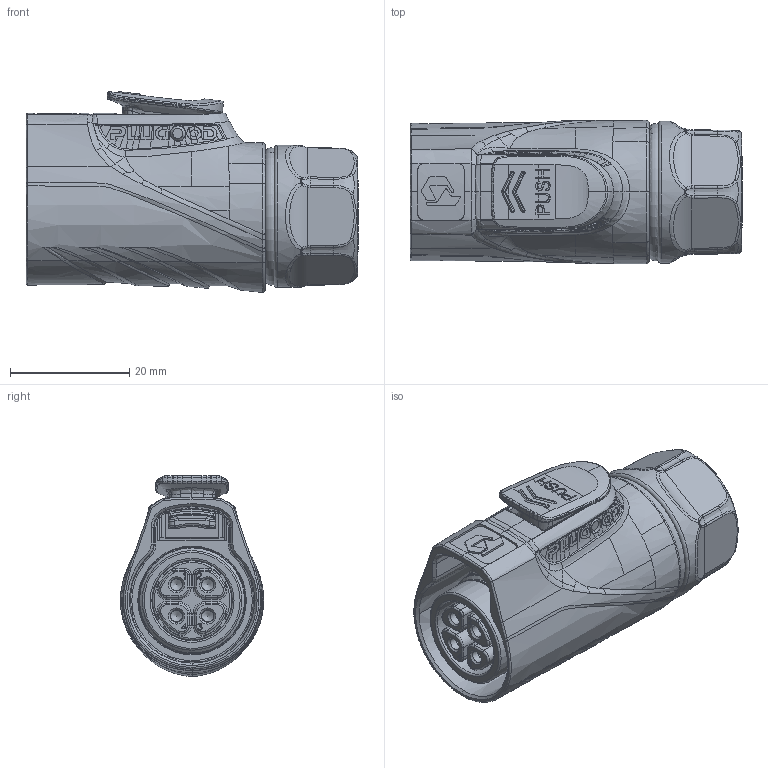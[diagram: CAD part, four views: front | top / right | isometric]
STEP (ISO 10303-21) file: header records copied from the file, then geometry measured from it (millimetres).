
FILE_DESCRIPTION (( 'STEP AP203' ), '1' );
FILE_NAME ('PLG16 4芯金属插头反装石头图.STEP', '2026-04-11T08:43:36', ( '' ), ( '' ), 'SwSTEP 2.0', 'SolidWorks 2024', '' );
FILE_SCHEMA (( 'CONFIG_CONTROL_DESIGN' ));
Products named in the file (1): PLG16 4芯金属插头反装石头图
Bounding box: 55.64 x 24.03 x 33.67 mm (x, y, z)
Volume: 23537.3 mm3; surface area: 11022.7 mm2
Topology: 2 solids, 6 shells, 1399 faces, 3828 edges, 2438 vertices
Faces by surface type: bspline 707, plane 357, cylinder 173, torus 95, cone 67
Full cylindrical faces by diameter (mm): 1.5 x1, 1.8 x3, 2 x6, 2.1 x4, 2.5 x1, 3 x4, 3.15 x4, 14.9 x2, 16.6 x2, 16.7 x4, 17.3 x1, 23.8 x1
Entity records: 326016 total; most frequent: CARTESIAN_POINT 297102, ORIENTED_EDGE 7432, EDGE_CURVE 3716, DIRECTION 3700, VERTEX_POINT 2401, B_SPLINE_CURVE_WITH_KNOTS 1955, EDGE_LOOP 1529, FACE_OUTER_BOUND 1446
